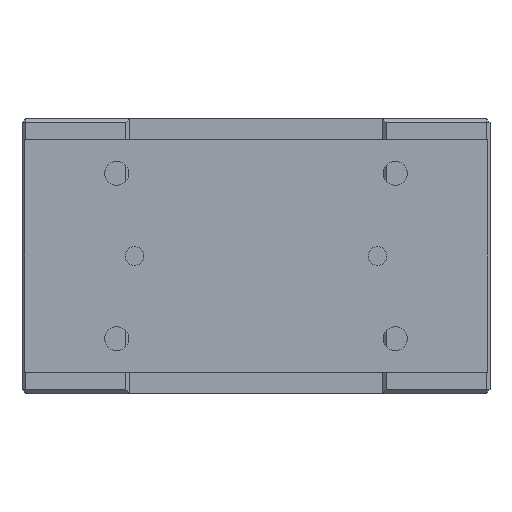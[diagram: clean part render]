
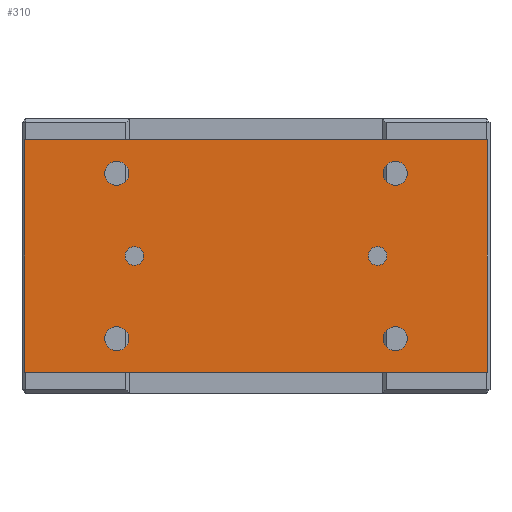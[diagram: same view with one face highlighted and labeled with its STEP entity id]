
A CAD part, left-side view. The second image highlights one B-rep face of the part: STEP entity #310.
In plain terms, the highlighted planar face has unit normal (-1, 0, 0).
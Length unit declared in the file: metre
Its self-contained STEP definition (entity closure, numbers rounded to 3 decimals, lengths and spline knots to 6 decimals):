
#310 = ADVANCED_FACE( '', ( #838, #839, #840, #841, #842, #843, #844 ), #845, .T. );
#838 = FACE_BOUND( '', #1732, .T. );
#839 = FACE_BOUND( '', #1733, .T. );
#840 = FACE_BOUND( '', #1734, .T. );
#841 = FACE_BOUND( '', #1735, .T. );
#842 = FACE_BOUND( '', #1736, .T. );
#843 = FACE_BOUND( '', #1737, .T. );
#844 = FACE_OUTER_BOUND( '', #1738, .T. );
#845 = PLANE( '', #1739 );
#1732 = EDGE_LOOP( '', ( #2681 ) );
#1733 = EDGE_LOOP( '', ( #2682 ) );
#1734 = EDGE_LOOP( '', ( #2683 ) );
#1735 = EDGE_LOOP( '', ( #2684 ) );
#1736 = EDGE_LOOP( '', ( #2685 ) );
#1737 = EDGE_LOOP( '', ( #2686 ) );
#1738 = EDGE_LOOP( '', ( #2687, #2688, #2689, #2690 ) );
#1739 = AXIS2_PLACEMENT_3D( '', #2691, #2692, #2693 );
#2681 = ORIENTED_EDGE( '', *, *, #4370, .F. );
#2682 = ORIENTED_EDGE( '', *, *, #4371, .T. );
#2683 = ORIENTED_EDGE( '', *, *, #4372, .F. );
#2684 = ORIENTED_EDGE( '', *, *, #4373, .F. );
#2685 = ORIENTED_EDGE( '', *, *, #4374, .F. );
#2686 = ORIENTED_EDGE( '', *, *, #4375, .F. );
#2687 = ORIENTED_EDGE( '', *, *, #4376, .T. );
#2688 = ORIENTED_EDGE( '', *, *, #4377, .T. );
#2689 = ORIENTED_EDGE( '', *, *, #4378, .T. );
#2690 = ORIENTED_EDGE( '', *, *, #4379, .T. );
#2691 = CARTESIAN_POINT( '', ( -0.143, -0.1245, -0.0115 ) );
#2692 = DIRECTION( '', ( -1., 0., 0. ) );
#2693 = DIRECTION( '', ( 0., 0., 1. ) );
#4370 = EDGE_CURVE( '', #5060, #5060, #5061, .T. );
#4371 = EDGE_CURVE( '', #5062, #5062, #5063, .T. );
#4372 = EDGE_CURVE( '', #5064, #5064, #5065, .T. );
#4373 = EDGE_CURVE( '', #5066, #5066, #5067, .T. );
#4374 = EDGE_CURVE( '', #5068, #5068, #5069, .T. );
#4375 = EDGE_CURVE( '', #5070, #5070, #5071, .T. );
#4376 = EDGE_CURVE( '', #5072, #5073, #5074, .T. );
#4377 = EDGE_CURVE( '', #5073, #5075, #5076, .T. );
#4378 = EDGE_CURVE( '', #5075, #5077, #5078, .T. );
#4379 = EDGE_CURVE( '', #5077, #5072, #5079, .T. );
#5060 = VERTEX_POINT( '', #6025 );
#5061 = CIRCLE( '', #6026, 0.005 );
#5062 = VERTEX_POINT( '', #6027 );
#5063 = CIRCLE( '', #6028, 0.005 );
#5064 = VERTEX_POINT( '', #6029 );
#5065 = CIRCLE( '', #6030, 0.0065 );
#5066 = VERTEX_POINT( '', #6031 );
#5067 = CIRCLE( '', #6032, 0.0065 );
#5068 = VERTEX_POINT( '', #6033 );
#5069 = CIRCLE( '', #6034, 0.0065 );
#5070 = VERTEX_POINT( '', #6035 );
#5071 = CIRCLE( '', #6036, 0.0065 );
#5072 = VERTEX_POINT( '', #6037 );
#5073 = VERTEX_POINT( '', #6038 );
#5074 = LINE( '', #6039, #6040 );
#5075 = VERTEX_POINT( '', #6041 );
#5076 = LINE( '', #6042, #6043 );
#5077 = VERTEX_POINT( '', #6044 );
#5078 = LINE( '', #6045, #6046 );
#5079 = LINE( '', #6047, #6048 );
#6025 = CARTESIAN_POINT( '', ( -0.143, -0.0705, -0.074 ) );
#6026 = AXIS2_PLACEMENT_3D( '', #7399, #7400, #7401 );
#6027 = CARTESIAN_POINT( '', ( -0.143, 0.0705, -0.074 ) );
#6028 = AXIS2_PLACEMENT_3D( '', #7402, #7403, #7404 );
#6029 = CARTESIAN_POINT( '', ( -0.143, -0.075, -0.112 ) );
#6030 = AXIS2_PLACEMENT_3D( '', #7405, #7406, #7407 );
#6031 = CARTESIAN_POINT( '', ( -0.143, 0.075, -0.112 ) );
#6032 = AXIS2_PLACEMENT_3D( '', #7408, #7409, #7410 );
#6033 = CARTESIAN_POINT( '', ( -0.143, -0.075, -0.023 ) );
#6034 = AXIS2_PLACEMENT_3D( '', #7411, #7412, #7413 );
#6035 = CARTESIAN_POINT( '', ( -0.143, 0.075, -0.023 ) );
#6036 = AXIS2_PLACEMENT_3D( '', #7414, #7415, #7416 );
#6037 = CARTESIAN_POINT( '', ( -0.143, -0.1245, -0.1365 ) );
#6038 = CARTESIAN_POINT( '', ( -0.143, -0.1245, -0.0115 ) );
#6039 = CARTESIAN_POINT( '', ( -0.143, -0.1245, -0.1365 ) );
#6040 = VECTOR( '', #7417, 1. );
#6041 = CARTESIAN_POINT( '', ( -0.143, 0.1245, -0.0115 ) );
#6042 = CARTESIAN_POINT( '', ( -0.143, -0.1245, -0.0115 ) );
#6043 = VECTOR( '', #7418, 1. );
#6044 = CARTESIAN_POINT( '', ( -0.143, 0.1245, -0.1365 ) );
#6045 = CARTESIAN_POINT( '', ( -0.143, 0.1245, -0.0115 ) );
#6046 = VECTOR( '', #7419, 1. );
#6047 = CARTESIAN_POINT( '', ( -0.143, 0.1245, -0.1365 ) );
#6048 = VECTOR( '', #7420, 1. );
#7399 = CARTESIAN_POINT( '', ( -0.143, -0.0655, -0.074 ) );
#7400 = DIRECTION( '', ( -1., 0., 0. ) );
#7401 = DIRECTION( '', ( 0., -1., 0. ) );
#7402 = CARTESIAN_POINT( '', ( -0.143, 0.0655, -0.074 ) );
#7403 = DIRECTION( '', ( 1., 0., 0. ) );
#7404 = DIRECTION( '', ( 0., 1., 0. ) );
#7405 = CARTESIAN_POINT( '', ( -0.143, -0.075, -0.1185 ) );
#7406 = DIRECTION( '', ( -1., 0., 0. ) );
#7407 = DIRECTION( '', ( 0., 0., 1. ) );
#7408 = CARTESIAN_POINT( '', ( -0.143, 0.075, -0.1185 ) );
#7409 = DIRECTION( '', ( -1., 0., 0. ) );
#7410 = DIRECTION( '', ( 0., 0., 1. ) );
#7411 = CARTESIAN_POINT( '', ( -0.143, -0.075, -0.0295 ) );
#7412 = DIRECTION( '', ( -1., 0., 0. ) );
#7413 = DIRECTION( '', ( 0., 0., 1. ) );
#7414 = CARTESIAN_POINT( '', ( -0.143, 0.075, -0.0295 ) );
#7415 = DIRECTION( '', ( -1., 0., 0. ) );
#7416 = DIRECTION( '', ( 0., 0., 1. ) );
#7417 = DIRECTION( '', ( 0., 0., 1. ) );
#7418 = DIRECTION( '', ( 0., 1., 0. ) );
#7419 = DIRECTION( '', ( 0., 0., -1. ) );
#7420 = DIRECTION( '', ( 0., -1., 0. ) );
